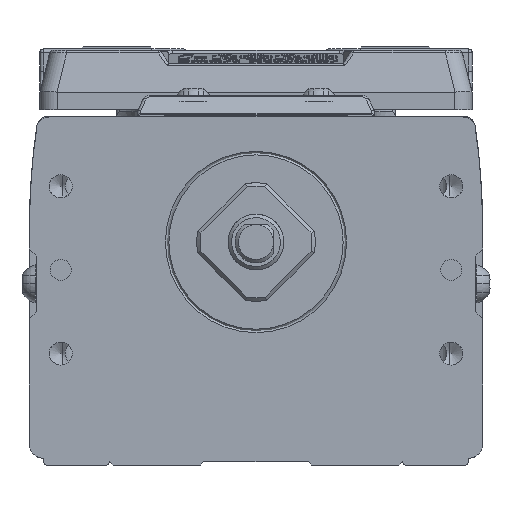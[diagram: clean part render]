
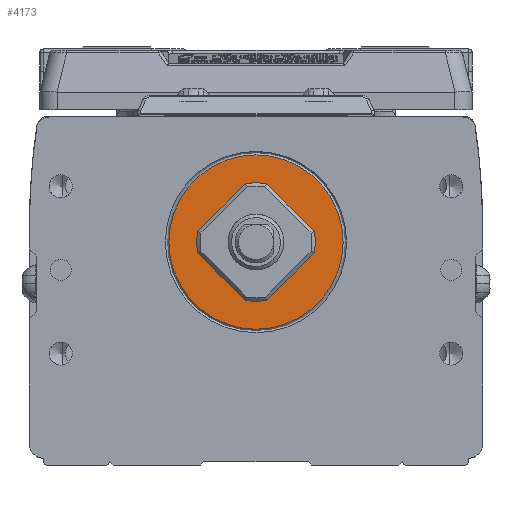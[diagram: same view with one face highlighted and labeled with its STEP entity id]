
A CAD part, left-side view. The second image highlights one B-rep face of the part: STEP entity #4173.
In plain terms, the highlighted planar face has unit normal (-1, 0, 0) as drawn and (0, 0, 1) by its records, which use the part's own axes.
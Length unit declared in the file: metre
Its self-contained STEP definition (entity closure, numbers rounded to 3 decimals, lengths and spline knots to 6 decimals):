
#4173=ADVANCED_FACE('',(#8533,#8534),#8535,.T.);
#8533=FACE_OUTER_BOUND('',#16065,.T.);
#8534=FACE_BOUND('',#16066,.T.);
#8535=PLANE('',#16067);
#16065=EDGE_LOOP('',(#27205));
#16066=EDGE_LOOP('',(#27206));
#16067=AXIS2_PLACEMENT_3D('',#27207,#27208,#27209);
#27205=ORIENTED_EDGE('',*,*,#31229,.T.);
#27206=ORIENTED_EDGE('',*,*,#34171,.F.);
#27207=CARTESIAN_POINT('',(0.000036,-0.0065,0.02));
#27208=DIRECTION('',(0.0,0.0,1.0));
#27209=DIRECTION('',(1.0,0.0,0.0));
#31229=EDGE_CURVE('',#36932,#36932,#36933,.T.);
#34171=EDGE_CURVE('',#41105,#41105,#41106,.T.);
#36932=VERTEX_POINT('',#45004);
#36933=CIRCLE('',#45005,0.0125);
#41105=VERTEX_POINT('',#51296);
#41106=CIRCLE('',#51297,0.004);
#45004=CARTESIAN_POINT('',(-0.0125,0.,0.02));
#45005=AXIS2_PLACEMENT_3D('',#53731,#53732,#53733);
#51296=CARTESIAN_POINT('',(0.004,0.0,0.02));
#51297=AXIS2_PLACEMENT_3D('',#56992,#56993,#56994);
#53731=CARTESIAN_POINT('',(0.0,0.,0.02));
#53732=DIRECTION('',(0.0,0.0,1.0));
#53733=DIRECTION('',(1.0,0.0,0.0));
#56992=CARTESIAN_POINT('',(0.0,0.0,0.02));
#56993=DIRECTION('',(0.0,0.0,1.0));
#56994=DIRECTION('',(-1.0,0.0,0.0));
